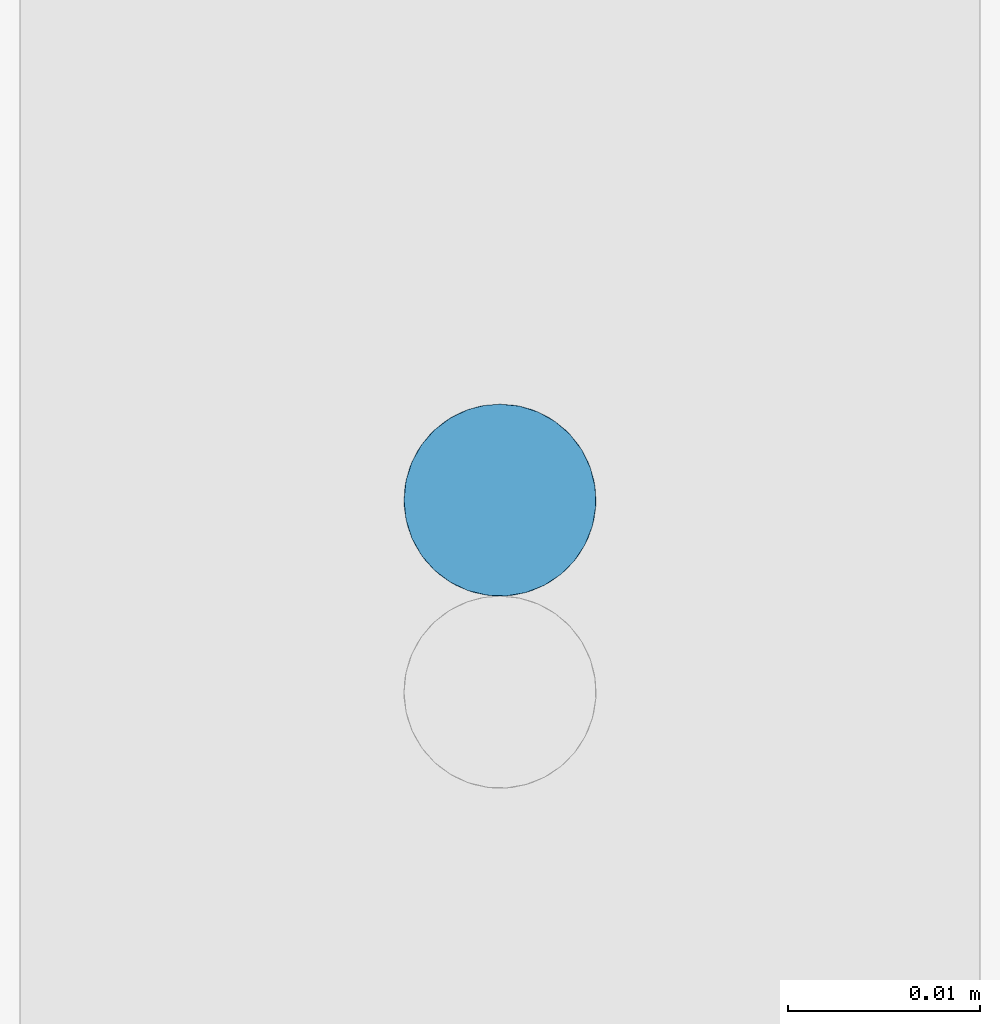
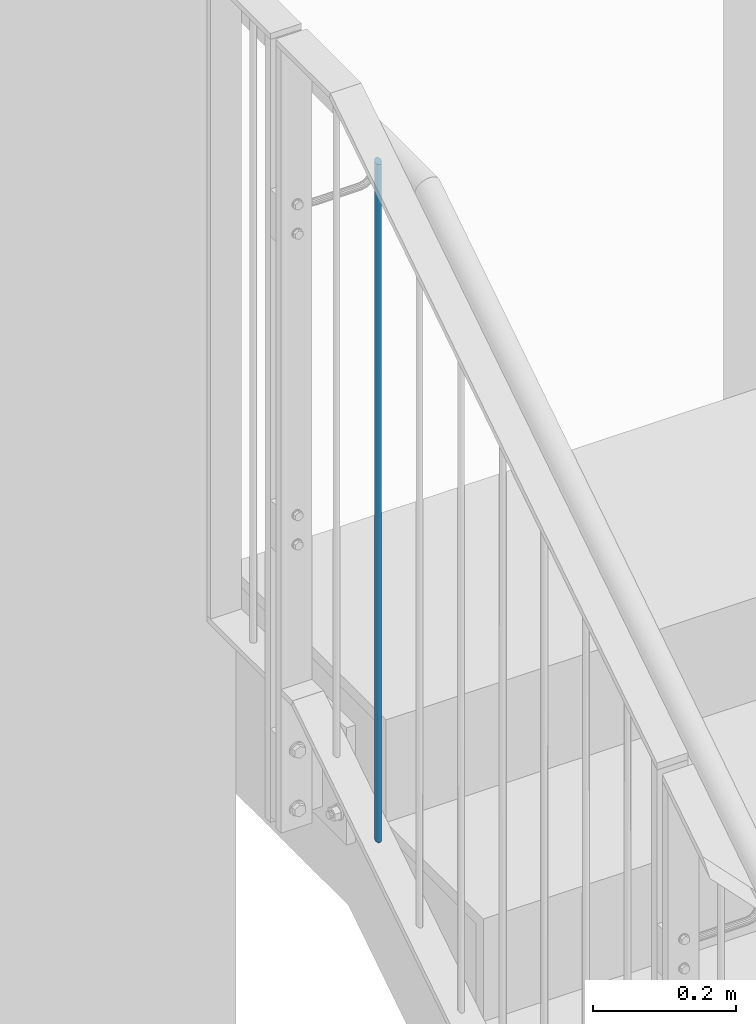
# One storey, part 56 of 296: 1 column.
"""IFC2X3 building model written with IfcOpenShell, lengths in millimetres."""

from ifc_helpers import new_model, entity, si_unit, converted_unit, frame, origin, origin_with_axes, origin_2d, place, context, project, spatial, circle, extrude, clip, halfspace, material, element, save


model = new_model("IFC2X3")

# Units and contexts
model_context = context("Model", 3, precision=1e-09, world=origin_with_axes())
ifc_project = project(units=[si_unit("LENGTHUNIT", "METRE", prefix="MILLI"), si_unit("AREAUNIT", "SQUARE_METRE"), si_unit("VOLUMEUNIT", "CUBIC_METRE"), converted_unit("PLANEANGLEUNIT", "DEGREE", entity("IfcPlaneAngleMeasure", 0.01745329), si_unit("PLANEANGLEUNIT", "RADIAN"), dimensions=[0, 0, 0, 0, 0, 0, 0])], contexts=[model_context])

# Site, building, storey
site_placement = place(None, origin_with_axes())
site = spatial("IfcSite", under=ifc_project, at=site_placement, Name="TZD-S?d | Treppenhausgel?nder", CompositionType="ELEMENT")
building_placement = place(site_placement, origin_with_axes())
building = spatial("IfcBuilding", under=site, at=building_placement, Name="Struktur 1", CompositionType="ELEMENT")
storey_placement = place(building_placement, origin_with_axes())
storey = spatial("IfcBuildingStorey", under=building, at=storey_placement, Name="Default Storey", CompositionType="ELEMENT", Elevation=0.0)

# Column
ifc_material = material(Name="S235JR")
column_placement = place(None, frame((-45.0, -729.72222222, 7209.639764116), z_axis=(0.0, 0.0, 1.0), x_axis=(0.0, 1.0, 0.0)))
element("IfcColumn", 1, at=column_placement, inside=storey, material=ifc_material, Name="-", ObjectType="-", context=model_context, shape_type="Clipping", body=[
    clip(clip(extrude(circle(Radius=5.0, at=origin_2d()), origin(), (0.0, 0.0, 1.0), 1184.929585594), halfspace(frame((-3302.598839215, -45.0, -960.459024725), z_axis=(0.542183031, 0.0, -0.840260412), x_axis=(0.0, 1.0, 0.0)), True)), halfspace(frame((-2775.865157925, -45.0, -1776.77645723), z_axis=(-0.542183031, 0.0, 0.840260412), x_axis=(0.0, -1.0, 0.0)), True)),
])

save(model, "model.ifc")
